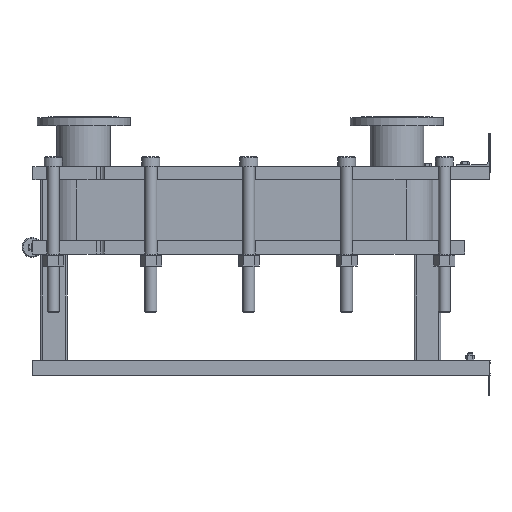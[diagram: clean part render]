
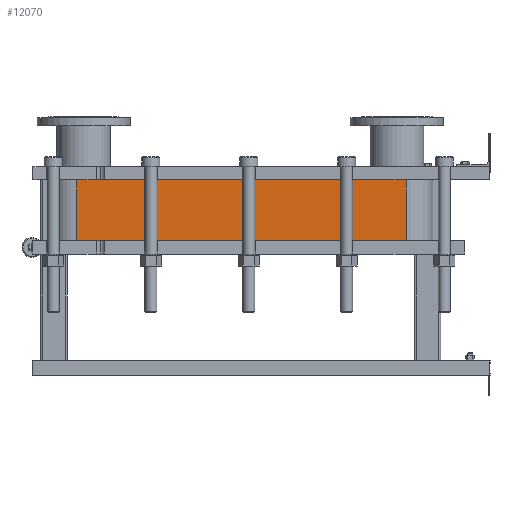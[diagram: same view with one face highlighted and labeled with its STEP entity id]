
A CAD part, left-side view. The second image highlights one B-rep face of the part: STEP entity #12070.
In plain terms, the highlighted planar face has unit normal (-1, 0, 0).
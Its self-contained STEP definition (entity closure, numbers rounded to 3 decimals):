
#1064=LINE('',#21140,#2164);
#1065=LINE('',#21144,#2165);
#1066=LINE('',#21146,#2166);
#1067=LINE('',#21147,#2167);
#2164=VECTOR('',#15790,10.);
#2165=VECTOR('',#15795,10.);
#2166=VECTOR('',#15796,10.);
#2167=VECTOR('',#15797,10.);
#3304=FACE_OUTER_BOUND('',#4091,.T.);
#4091=EDGE_LOOP('',(#9793,#9794,#9795,#9796));
#5677=VERTEX_POINT('',#21137);
#5678=VERTEX_POINT('',#21139);
#5679=VERTEX_POINT('',#21143);
#5680=VERTEX_POINT('',#21145);
#7118=EDGE_CURVE('',#5678,#5677,#1064,.T.);
#7120=EDGE_CURVE('',#5677,#5679,#1065,.T.);
#7121=EDGE_CURVE('',#5680,#5679,#1066,.T.);
#7122=EDGE_CURVE('',#5680,#5678,#1067,.T.);
#9793=ORIENTED_EDGE('',*,*,#7120,.T.);
#9794=ORIENTED_EDGE('',*,*,#7121,.F.);
#9795=ORIENTED_EDGE('',*,*,#7122,.T.);
#9796=ORIENTED_EDGE('',*,*,#7118,.T.);
#11441=PLANE('',#13191);
#12070=ADVANCED_FACE('',(#3304),#11441,.T.);
#13191=AXIS2_PLACEMENT_3D('',#21142,#15793,#15794);
#15790=DIRECTION('',(0.,0.,-1.));
#15793=DIRECTION('center_axis',(-1.,0.,0.));
#15794=DIRECTION('ref_axis',(0.,1.,0.));
#15795=DIRECTION('',(0.,-1.,0.));
#15796=DIRECTION('',(0.,0.,-1.));
#15797=DIRECTION('',(0.,1.,0.));
#21137=CARTESIAN_POINT('',(-248.152,1243.818,-182.85));
#21139=CARTESIAN_POINT('',(-248.152,1243.818,0.));
#21140=CARTESIAN_POINT('',(-248.152,1243.818,0.));
#21142=CARTESIAN_POINT('Origin',(-248.152,251.818,0.));
#21143=CARTESIAN_POINT('',(-248.152,251.818,-182.85));
#21144=CARTESIAN_POINT('',(-248.152,499.818,-182.85));
#21145=CARTESIAN_POINT('',(-248.152,251.818,0.));
#21146=CARTESIAN_POINT('',(-248.152,251.818,0.));
#21147=CARTESIAN_POINT('',(-248.152,251.818,0.));
